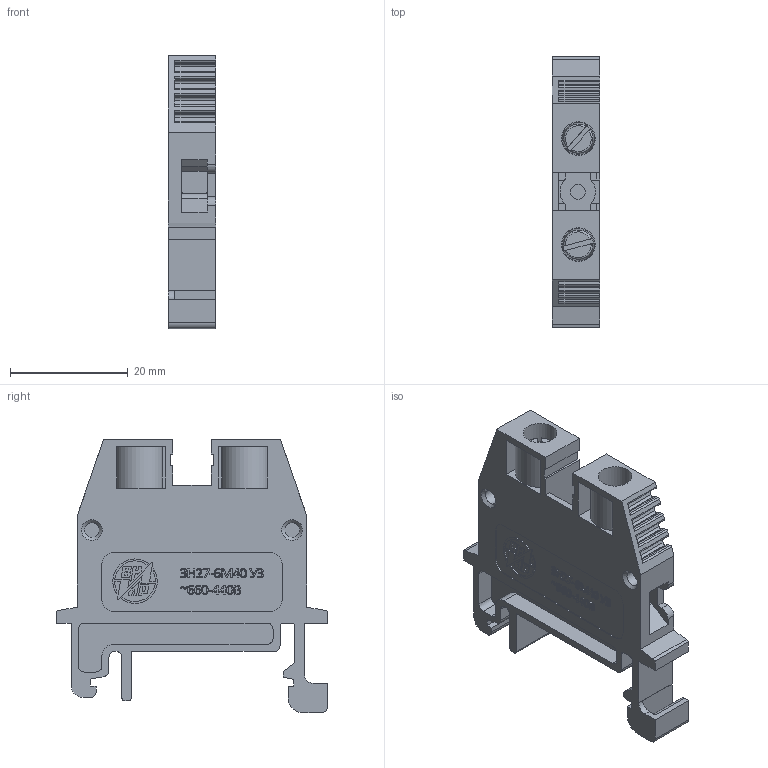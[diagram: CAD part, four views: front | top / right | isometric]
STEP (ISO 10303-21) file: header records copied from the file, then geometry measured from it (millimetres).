
FILE_DESCRIPTION(('STEP AP214'), '1');
FILE_NAME('ÇÍ27-6Ì40 áåç êðûøêè ÊÒ2 (äëÿ çàêàç÷èêà)', '2023-08-03T07:08:39', (''), (''), 'ASCON STEP Converter 1.6', 'ASCON Math Kernel', '');
FILE_SCHEMA(('AUTOMOTIVE_DESIGN { 1 0 10303 214 3 1 1}'));
Length unit declared in the file: millimetre
Bounding box: 8 x 46 x 46.4 mm (x, y, z)
Volume: 5735.7 mm3; surface area: 9494.1 mm2
Topology: 3 solids, 85 shells, 3372 faces, 10189 edges, 6942 vertices
Faces by surface type: plane 2499, cylinder 855, torus 12, cone 6
Full cylindrical faces by diameter (mm): 2.5 x1, 2.52 x4, 3.3 x4, 3.5 x2, 4 x2, 4.1 x2, 5.7 x2
Entity records: 140972 total; most frequent: CARTESIAN_POINT 20967, ORIENTED_EDGE 19852, DIRECTION 18681, EDGE_CURVE 10160, LINE 8289, VECTOR 8289, VERTEX_POINT 6942, AXIS2_PLACEMENT_3D 5196
